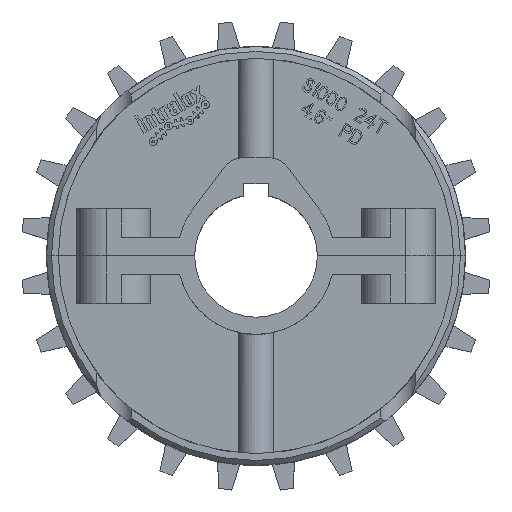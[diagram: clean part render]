
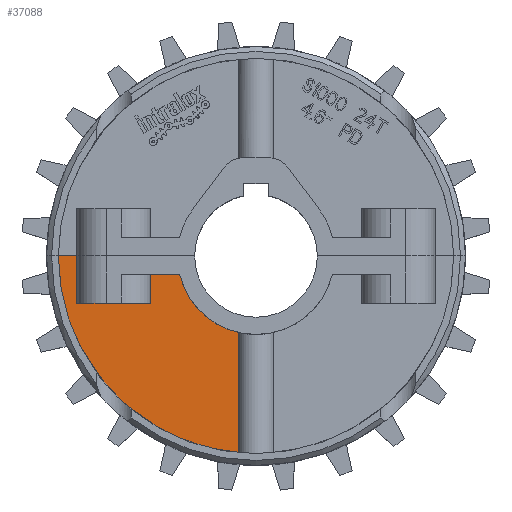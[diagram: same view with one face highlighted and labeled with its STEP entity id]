
A CAD part, top view. The second image highlights one B-rep face of the part: STEP entity #37088.
In plain terms, the highlighted planar face has unit normal (0, 0, 1).
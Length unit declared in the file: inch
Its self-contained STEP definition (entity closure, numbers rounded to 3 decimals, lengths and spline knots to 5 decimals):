
#29492=CARTESIAN_POINT('',(0.,0.,0.06));
#29493=DIRECTION('',(0.,0.,1.));
#29494=DIRECTION('',(-1.,0.,0.));
#29495=AXIS2_PLACEMENT_3D('',#29492,#29493,#29494);
#29497=CARTESIAN_POINT('',(-0.17764,-2.00546,0.06));
#29688=DIRECTION('',(0.,1.,0.));
#29689=VECTOR('',#29688,0.4825);
#29690=CARTESIAN_POINT('',(-1.825,-0.4825,0.06));
#29691=LINE('',#29690,#29689);
#29762=DIRECTION('',(1.,0.,0.));
#29763=VECTOR('',#29762,0.18831);
#29764=CARTESIAN_POINT('',(-2.01331,0.,0.06));
#29765=LINE('',#29764,#29763);
#29766=DIRECTION('',(1.,0.,0.));
#29767=VECTOR('',#29766,0.75);
#29768=CARTESIAN_POINT('',(-1.825,-0.4825,0.06));
#29769=LINE('',#29768,#29767);
#29770=DIRECTION('',(0.,1.,0.));
#29771=VECTOR('',#29770,0.295);
#29772=CARTESIAN_POINT('',(-1.075,-0.4825,0.06));
#29773=LINE('',#29772,#29771);
#29774=DIRECTION('',(1.,0.,0.));
#29775=VECTOR('',#29774,0.29728);
#29776=CARTESIAN_POINT('',(-1.075,-0.1875,0.06));
#29777=LINE('',#29776,#29775);
#29778=CARTESIAN_POINT('',(0.,0.,0.06));
#29779=DIRECTION('',(0.,0.,1.));
#29780=DIRECTION('',(-0.972,-0.234,0.));
#29781=AXIS2_PLACEMENT_3D('',#29778,#29779,#29780);
#29783=DIRECTION('',(0.,1.,0.));
#29784=VECTOR('',#29783,1.22543);
#29785=CARTESIAN_POINT('',(-0.17764,-2.00546,0.06));
#29786=LINE('',#29785,#29784);
#30203=CARTESIAN_POINT('',(-0.77772,-0.1875,0.06));
#30204=CARTESIAN_POINT('',(-0.17764,-0.78003,0.06));
#30205=VERTEX_POINT('',#30203);
#30206=VERTEX_POINT('',#30204);
#30239=CARTESIAN_POINT('',(-1.825,-0.4825,0.06));
#30240=CARTESIAN_POINT('',(-1.075,-0.4825,0.06));
#30241=VERTEX_POINT('',#30239);
#30242=VERTEX_POINT('',#30240);
#30243=CARTESIAN_POINT('',(-1.075,-0.1875,0.06));
#30244=VERTEX_POINT('',#30243);
#30273=VERTEX_POINT('',#29497);
#31229=CARTESIAN_POINT('',(-2.01331,0.,0.06));
#31230=CARTESIAN_POINT('',(-1.825,0.,0.06));
#31231=VERTEX_POINT('',#31229);
#31232=VERTEX_POINT('',#31230);
#37071=CARTESIAN_POINT('',(0.,0.,0.06));
#37072=DIRECTION('',(0.,0.,1.));
#37073=DIRECTION('',(1.,0.,0.));
#37074=AXIS2_PLACEMENT_3D('',#37071,#37072,#37073);
#37075=PLANE('',#37074);
#37076=ORIENTED_EDGE('',*,*,#32560,.T.);
#37077=ORIENTED_EDGE('',*,*,#36967,.F.);
#37078=ORIENTED_EDGE('',*,*,#36916,.T.);
#37080=ORIENTED_EDGE('',*,*,#37079,.T.);
#37081=ORIENTED_EDGE('',*,*,#36827,.T.);
#37082=ORIENTED_EDGE('',*,*,#36791,.T.);
#37084=ORIENTED_EDGE('',*,*,#37083,.F.);
#37085=ORIENTED_EDGE('',*,*,#36748,.F.);
#37086=EDGE_LOOP('',(#37076,#37077,#37078,#37080,#37081,#37082,#37084,#37085));
#37087=FACE_OUTER_BOUND('',#37086,.F.);
#37088=ADVANCED_FACE('',(#37087),#37075,.T.);
#29496=CIRCLE('',#29495,2.01331);
#29782=CIRCLE('',#29781,0.8);
#32560=EDGE_CURVE('',#31231,#31232,#29765,.T.);
#36748=EDGE_CURVE('',#31231,#30273,#29496,.T.);
#36791=EDGE_CURVE('',#30205,#30206,#29782,.T.);
#36827=EDGE_CURVE('',#30244,#30205,#29777,.T.);
#36916=EDGE_CURVE('',#30241,#30242,#29769,.T.);
#36967=EDGE_CURVE('',#30241,#31232,#29691,.T.);
#37079=EDGE_CURVE('',#30242,#30244,#29773,.T.);
#37083=EDGE_CURVE('',#30273,#30206,#29786,.T.);
